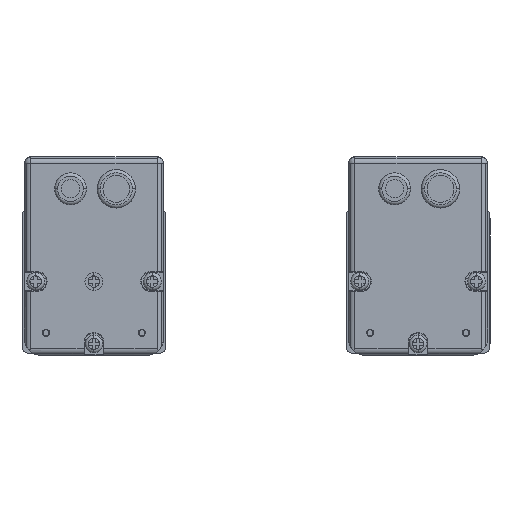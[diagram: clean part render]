
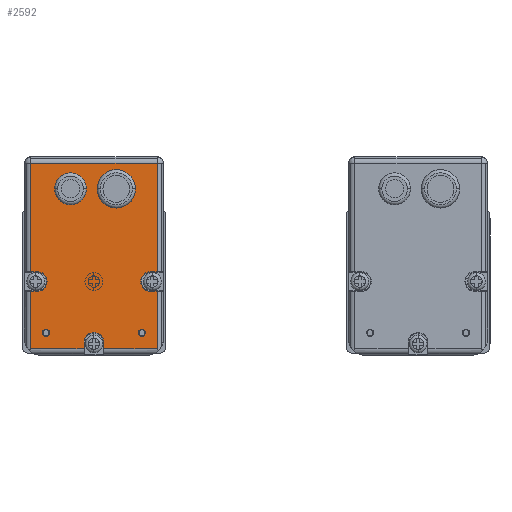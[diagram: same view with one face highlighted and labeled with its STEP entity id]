
A CAD part, left-side view. The second image highlights one B-rep face of the part: STEP entity #2592.
In plain terms, the highlighted planar face has unit normal (-1, 0, 0).
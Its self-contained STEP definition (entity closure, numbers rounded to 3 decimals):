
#2592=ADVANCED_FACE('',(#5817,#5818,#5819),#5820,.F.);
#5817=FACE_OUTER_BOUND('',#12490,.T.);
#5818=FACE_BOUND('',#12491,.T.);
#5819=FACE_BOUND('',#12492,.T.);
#5820=PLANE('',#12493);
#12490=EDGE_LOOP('',(#25831,#25832,#25833,#25834,#25835,#25836,#25837,#25838,#25839,#25840,#25841,#25842,#25843,#25844,#25845,#25846,#25847));
#12491=EDGE_LOOP('',(#25848,#25849));
#12492=EDGE_LOOP('',(#25850,#25851));
#12493=AXIS2_PLACEMENT_3D('',#25852,#25853,#25854);
#25831=ORIENTED_EDGE('',*,*,#33968,.F.);
#25832=ORIENTED_EDGE('',*,*,#36006,.F.);
#25833=ORIENTED_EDGE('',*,*,#34832,.F.);
#25834=ORIENTED_EDGE('',*,*,#36007,.F.);
#25835=ORIENTED_EDGE('',*,*,#35981,.F.);
#25836=ORIENTED_EDGE('',*,*,#36008,.F.);
#25837=ORIENTED_EDGE('',*,*,#36009,.F.);
#25838=ORIENTED_EDGE('',*,*,#36010,.F.);
#25839=ORIENTED_EDGE('',*,*,#35020,.F.);
#25840=ORIENTED_EDGE('',*,*,#36011,.F.);
#25841=ORIENTED_EDGE('',*,*,#36012,.F.);
#25842=ORIENTED_EDGE('',*,*,#36013,.F.);
#25843=ORIENTED_EDGE('',*,*,#36014,.F.);
#25844=ORIENTED_EDGE('',*,*,#34703,.F.);
#25845=ORIENTED_EDGE('',*,*,#34956,.F.);
#25846=ORIENTED_EDGE('',*,*,#36015,.F.);
#25847=ORIENTED_EDGE('',*,*,#35812,.F.);
#25848=ORIENTED_EDGE('',*,*,#36016,.F.);
#25849=ORIENTED_EDGE('',*,*,#36017,.F.);
#25850=ORIENTED_EDGE('',*,*,#36018,.F.);
#25851=ORIENTED_EDGE('',*,*,#33893,.F.);
#25852=CARTESIAN_POINT('',(61.25,103.798,67.78));
#25853=DIRECTION('',(1.0,0.0,0.0));
#25854=DIRECTION('',(0.0,0.0,-1.0));
#33893=EDGE_CURVE('',#38596,#38598,#38599,.T.);
#33968=EDGE_CURVE('',#38735,#38737,#38738,.T.);
#34703=EDGE_CURVE('',#40008,#40010,#40011,.T.);
#34832=EDGE_CURVE('',#40223,#40225,#40226,.T.);
#34956=EDGE_CURVE('',#40431,#40008,#40433,.T.);
#35020=EDGE_CURVE('',#39424,#40537,#40538,.T.);
#35812=EDGE_CURVE('',#38737,#41804,#41805,.T.);
#35981=EDGE_CURVE('',#42069,#42071,#42072,.T.);
#36006=EDGE_CURVE('',#40225,#38735,#42108,.T.);
#36007=EDGE_CURVE('',#42071,#40223,#42109,.T.);
#36008=EDGE_CURVE('',#42110,#42069,#42111,.T.);
#36009=EDGE_CURVE('',#41650,#42110,#42112,.T.);
#36010=EDGE_CURVE('',#40537,#41650,#42113,.T.);
#36011=EDGE_CURVE('',#42114,#39424,#42115,.T.);
#36012=EDGE_CURVE('',#42116,#42114,#42117,.T.);
#36013=EDGE_CURVE('',#42118,#42116,#42119,.T.);
#36014=EDGE_CURVE('',#40010,#42118,#42120,.T.);
#36015=EDGE_CURVE('',#41804,#40431,#42121,.T.);
#36016=EDGE_CURVE('',#42122,#42123,#42124,.T.);
#36017=EDGE_CURVE('',#42123,#42122,#42125,.T.);
#36018=EDGE_CURVE('',#38598,#38596,#42126,.T.);
#38596=VERTEX_POINT('',#46402);
#38598=VERTEX_POINT('',#46404);
#38599=CIRCLE('',#46405,1.1);
#38735=VERTEX_POINT('',#46574);
#38737=VERTEX_POINT('',#46576);
#38738=LINE('',#46577,#46578);
#39424=VERTEX_POINT('',#53051);
#40008=VERTEX_POINT('',#54861);
#40010=VERTEX_POINT('',#54863);
#40011=LINE('',#54864,#54865);
#40223=VERTEX_POINT('',#55129);
#40225=VERTEX_POINT('',#55131);
#40226=LINE('',#55132,#55133);
#40431=VERTEX_POINT('',#57457);
#40433=LINE('',#57459,#57460);
#40537=VERTEX_POINT('',#58622);
#40538=LINE('',#58623,#58624);
#41650=VERTEX_POINT('',#65207);
#41804=VERTEX_POINT('',#67418);
#41805=CIRCLE('',#67419,3.1);
#42069=VERTEX_POINT('',#80779);
#42071=VERTEX_POINT('',#80781);
#42072=CIRCLE('',#80782,3.1);
#42108=LINE('',#81310,#81311);
#42109=LINE('',#81312,#81313);
#42110=VERTEX_POINT('',#81314);
#42111=CIRCLE('',#81315,3.1);
#42112=LINE('',#81316,#81317);
#42113=LINE('',#81318,#81319);
#42114=VERTEX_POINT('',#81320);
#42115=LINE('',#81321,#81322);
#42116=VERTEX_POINT('',#81323);
#42117=CIRCLE('',#81324,3.1);
#42118=VERTEX_POINT('',#81325);
#42119=LINE('',#81326,#81327);
#42120=LINE('',#81328,#81329);
#42121=LINE('',#81330,#81331);
#42122=VERTEX_POINT('',#81332);
#42123=VERTEX_POINT('',#81333);
#42124=CIRCLE('',#81334,1.1);
#42125=CIRCLE('',#81335,1.1);
#42126=CIRCLE('',#81336,1.1);
#46402=CARTESIAN_POINT('',(61.25,118.798,42.68));
#46404=CARTESIAN_POINT('',(61.25,118.798,44.88));
#46405=AXIS2_PLACEMENT_3D('',#120299,#120300,#120301);
#46574=CARTESIAN_POINT('',(61.25,123.548,56.68));
#46576=CARTESIAN_POINT('',(61.25,121.548,56.68));
#46577=CARTESIAN_POINT('',(61.25,112.923,56.68));
#46578=VECTOR('',#120428,1.0);
#53051=CARTESIAN_POINT('',(61.25,84.048,56.68));
#54861=CARTESIAN_POINT('',(61.25,123.548,96.78));
#54863=CARTESIAN_POINT('',(61.25,84.048,96.78));
#54864=CARTESIAN_POINT('',(61.25,103.798,96.78));
#54865=VECTOR('',#121551,1.0);
#55129=CARTESIAN_POINT('',(61.25,106.898,38.78));
#55131=CARTESIAN_POINT('',(61.25,123.548,38.78));
#55132=CARTESIAN_POINT('',(61.25,103.798,38.78));
#55133=VECTOR('',#121766,1.0);
#57457=CARTESIAN_POINT('',(61.25,123.548,62.88));
#57459=CARTESIAN_POINT('',(61.25,123.548,67.78));
#57460=VECTOR('',#121949,1.0);
#58622=CARTESIAN_POINT('',(61.25,84.048,38.78));
#58623=CARTESIAN_POINT('',(61.25,84.048,67.78));
#58624=VECTOR('',#122033,1.0);
#65207=CARTESIAN_POINT('',(61.25,100.698,38.78));
#67418=CARTESIAN_POINT('',(61.25,121.548,62.88));
#67419=AXIS2_PLACEMENT_3D('',#123193,#123194,#123195);
#80779=CARTESIAN_POINT('',(61.25,103.798,43.88));
#80781=CARTESIAN_POINT('',(61.25,106.898,40.78));
#80782=AXIS2_PLACEMENT_3D('',#123419,#123420,#123421);
#81310=CARTESIAN_POINT('',(61.25,123.548,67.78));
#81311=VECTOR('',#123470,1.0);
#81312=CARTESIAN_POINT('',(61.25,106.898,54.03));
#81313=VECTOR('',#123471,1.0);
#81314=CARTESIAN_POINT('',(61.25,100.698,40.78));
#81315=AXIS2_PLACEMENT_3D('',#123472,#123473,#123474);
#81316=CARTESIAN_POINT('',(61.25,100.698,54.03));
#81317=VECTOR('',#123475,1.0);
#81318=CARTESIAN_POINT('',(61.25,103.798,38.78));
#81319=VECTOR('',#123476,1.0);
#81320=CARTESIAN_POINT('',(61.25,86.048,56.68));
#81321=CARTESIAN_POINT('',(61.25,94.673,56.68));
#81322=VECTOR('',#123477,1.0);
#81323=CARTESIAN_POINT('',(61.25,86.048,62.88));
#81324=AXIS2_PLACEMENT_3D('',#123478,#123479,#123480);
#81325=CARTESIAN_POINT('',(61.25,84.048,62.88));
#81326=CARTESIAN_POINT('',(61.25,94.673,62.88));
#81327=VECTOR('',#123481,1.0);
#81328=CARTESIAN_POINT('',(61.25,84.048,67.78));
#81329=VECTOR('',#123482,1.0);
#81330=CARTESIAN_POINT('',(61.25,112.923,62.88));
#81331=VECTOR('',#123483,1.0);
#81332=CARTESIAN_POINT('',(61.25,88.798,44.88));
#81333=CARTESIAN_POINT('',(61.25,88.798,42.68));
#81334=AXIS2_PLACEMENT_3D('',#123484,#123485,#123486);
#81335=AXIS2_PLACEMENT_3D('',#123487,#123488,#123489);
#81336=AXIS2_PLACEMENT_3D('',#123490,#123491,#123492);
#120299=CARTESIAN_POINT('',(61.25,118.798,43.78));
#120300=DIRECTION('',(-1.0,0.0,0.0));
#120301=DIRECTION('',(0.0,0.0,-1.0));
#120428=DIRECTION('',(0.0,-1.0,0.0));
#121551=DIRECTION('',(0.0,-1.0,0.0));
#121766=DIRECTION('',(0.0,1.0,0.0));
#121949=DIRECTION('',(0.0,0.0,1.0));
#122033=DIRECTION('',(0.0,0.0,-1.0));
#123193=CARTESIAN_POINT('',(61.25,121.548,59.78));
#123194=DIRECTION('',(-1.0,-0.0,0.0));
#123195=DIRECTION('',(0.0,-1.0,0.));
#123419=CARTESIAN_POINT('',(61.25,103.798,40.78));
#123420=DIRECTION('',(-1.0,0.0,0.0));
#123421=DIRECTION('',(0.0,0.0,1.0));
#123470=DIRECTION('',(0.0,0.0,1.0));
#123471=DIRECTION('',(0.0,0.0,-1.0));
#123472=CARTESIAN_POINT('',(61.25,103.798,40.78));
#123473=DIRECTION('',(-1.0,0.0,0.0));
#123474=DIRECTION('',(0.0,0.0,1.0));
#123475=DIRECTION('',(0.0,0.0,1.0));
#123476=DIRECTION('',(0.0,1.0,0.0));
#123477=DIRECTION('',(0.0,-1.0,0.0));
#123478=CARTESIAN_POINT('',(61.25,86.048,59.78));
#123479=DIRECTION('',(-1.0,0.0,0.0));
#123480=DIRECTION('',(0.0,1.0,0.));
#123481=DIRECTION('',(0.0,1.0,0.0));
#123482=DIRECTION('',(0.0,0.0,-1.0));
#123483=DIRECTION('',(0.0,1.0,0.0));
#123484=CARTESIAN_POINT('',(61.25,88.798,43.78));
#123485=DIRECTION('',(-1.0,0.0,0.0));
#123486=DIRECTION('',(0.0,0.0,-1.0));
#123487=CARTESIAN_POINT('',(61.25,88.798,43.78));
#123488=DIRECTION('',(-1.0,0.0,0.0));
#123489=DIRECTION('',(0.0,0.0,-1.0));
#123490=CARTESIAN_POINT('',(61.25,118.798,43.78));
#123491=DIRECTION('',(-1.0,0.0,0.0));
#123492=DIRECTION('',(0.0,0.0,-1.0));
